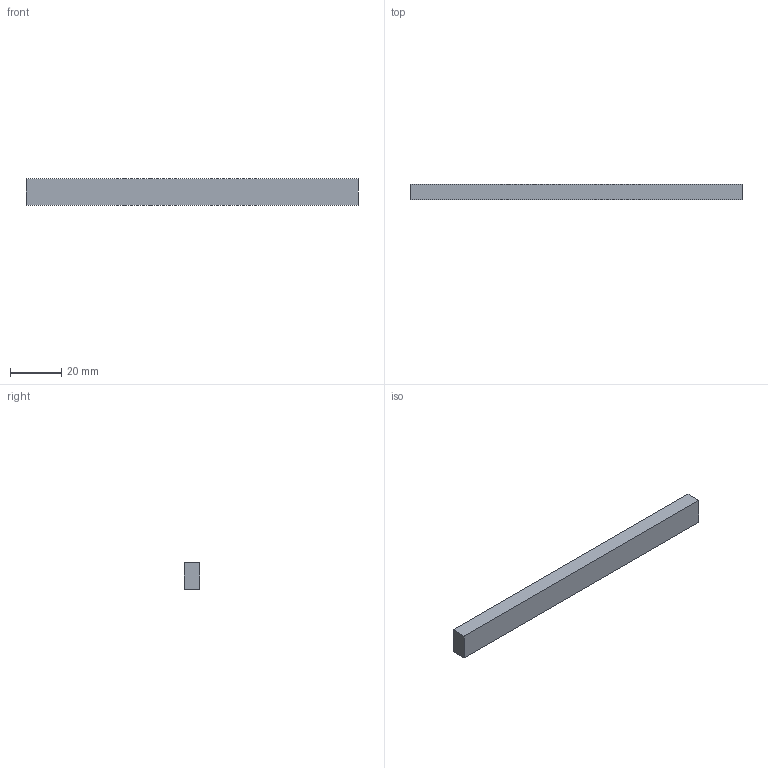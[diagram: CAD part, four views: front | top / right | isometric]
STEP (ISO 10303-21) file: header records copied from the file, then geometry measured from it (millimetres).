
FILE_DESCRIPTION(('Open CASCADE Model'),'2;1');
FILE_NAME('Open CASCADE Shape Model','2026-11-03T16:24:21',('Author'),( 'Open CASCADE'),'Open CASCADE STEP processor 8.0','build123d', 'Unknown');
FILE_SCHEMA(('AUTOMOTIVE_DESIGN { 1 0 10303 214 1 1 1 1 }'));
Length unit declared in the file: millimetre
Products named in the file (1): COMPOUND
Bounding box: 130 x 6 x 10.5 mm (x, y, z)
Volume: 8190 mm3; surface area: 4416 mm2
Topology: 1 solids, 1 shells, 6 faces, 12 edges, 8 vertices
Faces by surface type: plane 6
Entity records: 322 total; most frequent: CARTESIAN_POINT 51, DIRECTION 50, LINE 36, VECTOR 36, ORIENTED_EDGE 24, PCURVE 24, DEFINITIONAL_REPRESENTATION 24, EDGE_CURVE 12
